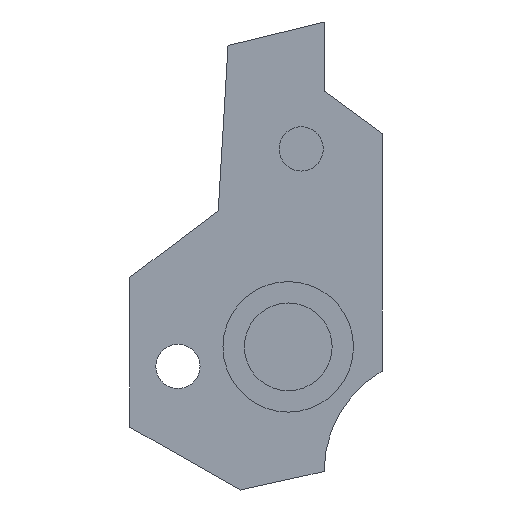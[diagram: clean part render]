
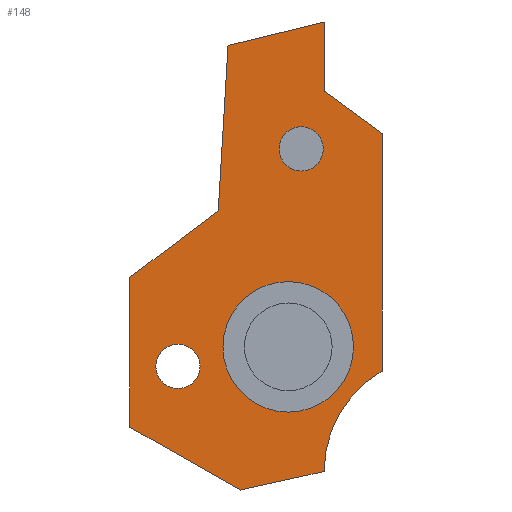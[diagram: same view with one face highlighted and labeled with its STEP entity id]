
A CAD part, front view. The second image highlights one B-rep face of the part: STEP entity #148.
In plain terms, the highlighted planar face has unit normal (0, -1, 0).
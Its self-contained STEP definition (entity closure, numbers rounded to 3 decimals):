
#8 = CARTESIAN_POINT ( 'NONE',  ( -3.902, 0., -6.872 ) ) ;
#9 = VERTEX_POINT ( 'NONE', #66 ) ;
#16 = EDGE_CURVE ( 'NONE', #608, #464, #752, .T. ) ;
#22 = PLANE ( 'NONE',  #64 ) ;
#31 = VECTOR ( 'NONE', #259, 1000. ) ;
#38 = CARTESIAN_POINT ( 'NONE',  ( -18.08, 0., 5.725 ) ) ;
#47 = AXIS2_PLACEMENT_3D ( 'NONE', #664, #941, #353 ) ;
#49 = VERTEX_POINT ( 'NONE', #607 ) ;
#50 = DIRECTION ( 'NONE',  ( 0., 0., 1. ) ) ;
#53 = ORIENTED_EDGE ( 'NONE', *, *, #811, .T. ) ;
#64 = AXIS2_PLACEMENT_3D ( 'NONE', #319, #109, #403 ) ;
#66 = CARTESIAN_POINT ( 'NONE',  ( -15.297, 0., 17.989 ) ) ;
#68 = AXIS2_PLACEMENT_3D ( 'NONE', #325, #609, #897 ) ;
#70 = EDGE_CURVE ( 'NONE', #571, #456, #316, .T. ) ;
#73 = ORIENTED_EDGE ( 'NONE', *, *, #904, .F. ) ;
#75 = VECTOR ( 'NONE', #887, 1000. ) ;
#80 = VERTEX_POINT ( 'NONE', #222 ) ;
#81 = DIRECTION ( 'NONE',  ( 0., 0., 1. ) ) ;
#96 = VECTOR ( 'NONE', #228, 1000. ) ;
#107 = AXIS2_PLACEMENT_3D ( 'NONE', #310, #746, #81 ) ;
#109 = DIRECTION ( 'NONE',  ( 0., 1., 0. ) ) ;
#148 = ADVANCED_FACE ( 'NONE', ( #258, #757, #775, #187 ), #22, .F. ) ;
#161 = CARTESIAN_POINT ( 'NONE',  ( -9.58, 0., 23.775 ) ) ;
#163 = DIRECTION ( 'NONE',  ( 0., 0., 1. ) ) ;
#181 = DIRECTION ( 'NONE',  ( 0., 1., 0. ) ) ;
#182 = VECTOR ( 'NONE', #410, 1000. ) ;
#187 = FACE_BOUND ( 'NONE', #335, .T. ) ;
#189 = LINE ( 'NONE', #555, #586 ) ;
#193 = LINE ( 'NONE', #284, #716 ) ;
#198 = EDGE_LOOP ( 'NONE', ( #813, #844 ) ) ;
#204 = AXIS2_PLACEMENT_3D ( 'NONE', #711, #254, #627 ) ;
#213 = VERTEX_POINT ( 'NONE', #372 ) ;
#216 = CARTESIAN_POINT ( 'NONE',  ( -18.08, 0., 8.775 ) ) ;
#222 = CARTESIAN_POINT ( 'NONE',  ( -8., 0., 0. ) ) ;
#228 = DIRECTION ( 'NONE',  ( 0.972, 0., 0.237 ) ) ;
#236 = CARTESIAN_POINT ( 'NONE',  ( -16.303, 0., 0.963 ) ) ;
#242 = CIRCLE ( 'NONE', #68, 1.525 ) ;
#254 = DIRECTION ( 'NONE',  ( 0., -1., 0. ) ) ;
#258 = FACE_BOUND ( 'NONE', #378, .T. ) ;
#259 = DIRECTION ( 'NONE',  ( 0., 0., 1. ) ) ;
#274 = VERTEX_POINT ( 'NONE', #689 ) ;
#275 = CIRCLE ( 'NONE', #327, 8. ) ;
#284 = CARTESIAN_POINT ( 'NONE',  ( 9.714, 0., 13.209 ) ) ;
#285 = EDGE_CURVE ( 'NONE', #456, #571, #242, .T. ) ;
#298 = EDGE_CURVE ( 'NONE', #213, #411, #390, .T. ) ;
#299 = ORIENTED_EDGE ( 'NONE', *, *, #317, .F. ) ;
#304 = VECTOR ( 'NONE', #163, 1000. ) ;
#310 = CARTESIAN_POINT ( 'NONE',  ( -10.472, 0., 8.599 ) ) ;
#312 = LINE ( 'NONE', #675, #96 ) ;
#316 = CIRCLE ( 'NONE', #432, 1.525 ) ;
#317 = EDGE_CURVE ( 'NONE', #9, #359, #542, .T. ) ;
#319 = CARTESIAN_POINT ( 'NONE',  ( 0., 0., 0. ) ) ;
#320 = VERTEX_POINT ( 'NONE', #161 ) ;
#323 = ORIENTED_EDGE ( 'NONE', *, *, #435, .F. ) ;
#325 = CARTESIAN_POINT ( 'NONE',  ( -18.08, 0., 7.25 ) ) ;
#327 = AXIS2_PLACEMENT_3D ( 'NONE', #788, #925, #50 ) ;
#335 = EDGE_LOOP ( 'NONE', ( #323, #885 ) ) ;
#353 = DIRECTION ( 'NONE',  ( 0., 0., 1. ) ) ;
#355 = EDGE_CURVE ( 'NONE', #587, #49, #865, .T. ) ;
#357 = CARTESIAN_POINT ( 'NONE',  ( -10.472, 0., 4.099 ) ) ;
#359 = VERTEX_POINT ( 'NONE', #376 ) ;
#364 = DIRECTION ( 'NONE',  ( 0., -1., 0. ) ) ;
#372 = CARTESIAN_POINT ( 'NONE',  ( -8., 0., 31. ) ) ;
#376 = CARTESIAN_POINT ( 'NONE',  ( -14.624, 0., 29.384 ) ) ;
#378 = EDGE_LOOP ( 'NONE', ( #407, #451 ) ) ;
#385 = AXIS2_PLACEMENT_3D ( 'NONE', #564, #181, #776 ) ;
#390 = LINE ( 'NONE', #619, #75 ) ;
#403 = DIRECTION ( 'NONE',  ( 0., 0., 1. ) ) ;
#407 = ORIENTED_EDGE ( 'NONE', *, *, #285, .F. ) ;
#410 = DIRECTION ( 'NONE',  ( 0.798, 0., 0.602 ) ) ;
#411 = VERTEX_POINT ( 'NONE', #909 ) ;
#414 = CARTESIAN_POINT ( 'NONE',  ( -4., 0., 0. ) ) ;
#432 = AXIS2_PLACEMENT_3D ( 'NONE', #894, #364, #830 ) ;
#435 = EDGE_CURVE ( 'NONE', #49, #587, #496, .T. ) ;
#451 = ORIENTED_EDGE ( 'NONE', *, *, #70, .F. ) ;
#456 = VERTEX_POINT ( 'NONE', #38 ) ;
#463 = VECTOR ( 'NONE', #823, 1000. ) ;
#464 = VERTEX_POINT ( 'NONE', #845 ) ;
#468 = VERTEX_POINT ( 'NONE', #568 ) ;
#472 = LINE ( 'NONE', #573, #182 ) ;
#496 = CIRCLE ( 'NONE', #204, 4.5 ) ;
#499 = EDGE_CURVE ( 'NONE', #464, #80, #189, .T. ) ;
#535 = ORIENTED_EDGE ( 'NONE', *, *, #720, .F. ) ;
#542 = LINE ( 'NONE', #236, #861 ) ;
#555 = CARTESIAN_POINT ( 'NONE',  ( -0.371, 0., 1.683 ) ) ;
#564 = CARTESIAN_POINT ( 'NONE',  ( -9.58, 0., 22.25 ) ) ;
#568 = CARTESIAN_POINT ( 'NONE',  ( -4., 0., 6.928 ) ) ;
#569 = LINE ( 'NONE', #414, #31 ) ;
#571 = VERTEX_POINT ( 'NONE', #216 ) ;
#573 = CARTESIAN_POINT ( 'NONE',  ( -14.202, 0., 18.815 ) ) ;
#586 = VECTOR ( 'NONE', #771, 1000. ) ;
#587 = VERTEX_POINT ( 'NONE', #357 ) ;
#595 = CARTESIAN_POINT ( 'NONE',  ( -21.391, 0., 3.057 ) ) ;
#604 = EDGE_CURVE ( 'NONE', #764, #320, #727, .T. ) ;
#607 = CARTESIAN_POINT ( 'NONE',  ( -10.472, 0., 13.099 ) ) ;
#608 = VERTEX_POINT ( 'NONE', #595 ) ;
#609 = DIRECTION ( 'NONE',  ( 0., -1., 0. ) ) ;
#616 = LINE ( 'NONE', #691, #304 ) ;
#619 = CARTESIAN_POINT ( 'NONE',  ( -8., 0., 0. ) ) ;
#627 = DIRECTION ( 'NONE',  ( 0., 0., 1. ) ) ;
#636 = ORIENTED_EDGE ( 'NONE', *, *, #16, .T. ) ;
#664 = CARTESIAN_POINT ( 'NONE',  ( -9.58, 0., 22.25 ) ) ;
#675 = CARTESIAN_POINT ( 'NONE',  ( -7.586, 0., 31.101 ) ) ;
#689 = CARTESIAN_POINT ( 'NONE',  ( -4., 0., 23.293 ) ) ;
#691 = CARTESIAN_POINT ( 'NONE',  ( -21.391, 0., 0. ) ) ;
#706 = EDGE_CURVE ( 'NONE', #359, #213, #312, .T. ) ;
#710 = ORIENTED_EDGE ( 'NONE', *, *, #298, .F. ) ;
#711 = CARTESIAN_POINT ( 'NONE',  ( -10.472, 0., 8.599 ) ) ;
#716 = VECTOR ( 'NONE', #864, 1000. ) ;
#720 = EDGE_CURVE ( 'NONE', #608, #929, #616, .T. ) ;
#727 = CIRCLE ( 'NONE', #47, 1.525 ) ;
#729 = CIRCLE ( 'NONE', #385, 1.525 ) ;
#746 = DIRECTION ( 'NONE',  ( 0., -1., 0. ) ) ;
#752 = LINE ( 'NONE', #8, #463 ) ;
#757 = FACE_OUTER_BOUND ( 'NONE', #856, .T. ) ;
#759 = ORIENTED_EDGE ( 'NONE', *, *, #499, .T. ) ;
#764 = VERTEX_POINT ( 'NONE', #837 ) ;
#765 = DIRECTION ( 'NONE',  ( 0.059, 0., 0.998 ) ) ;
#771 = DIRECTION ( 'NONE',  ( 0.977, 0., 0.215 ) ) ;
#775 = FACE_BOUND ( 'NONE', #198, .T. ) ;
#776 = DIRECTION ( 'NONE',  ( 0., 0., 1. ) ) ;
#788 = CARTESIAN_POINT ( 'NONE',  ( 0., 0., 0. ) ) ;
#805 = ORIENTED_EDGE ( 'NONE', *, *, #706, .F. ) ;
#811 = EDGE_CURVE ( 'NONE', #468, #274, #569, .T. ) ;
#813 = ORIENTED_EDGE ( 'NONE', *, *, #604, .T. ) ;
#819 = ORIENTED_EDGE ( 'NONE', *, *, #836, .T. ) ;
#823 = DIRECTION ( 'NONE',  ( 0.87, 0., -0.494 ) ) ;
#830 = DIRECTION ( 'NONE',  ( 0., 0., -1. ) ) ;
#836 = EDGE_CURVE ( 'NONE', #80, #468, #275, .T. ) ;
#837 = CARTESIAN_POINT ( 'NONE',  ( -9.58, 0., 20.725 ) ) ;
#844 = ORIENTED_EDGE ( 'NONE', *, *, #857, .T. ) ;
#845 = CARTESIAN_POINT ( 'NONE',  ( -13.766, 0., -1.272 ) ) ;
#855 = CARTESIAN_POINT ( 'NONE',  ( -21.391, 0., 13.389 ) ) ;
#856 = EDGE_LOOP ( 'NONE', ( #819, #53, #875, #710, #805, #299, #73, #535, #636, #759 ) ) ;
#857 = EDGE_CURVE ( 'NONE', #320, #764, #729, .T. ) ;
#861 = VECTOR ( 'NONE', #765, 1000. ) ;
#864 = DIRECTION ( 'NONE',  ( 0.806, 0., -0.592 ) ) ;
#865 = CIRCLE ( 'NONE', #107, 4.5 ) ;
#875 = ORIENTED_EDGE ( 'NONE', *, *, #930, .F. ) ;
#885 = ORIENTED_EDGE ( 'NONE', *, *, #355, .F. ) ;
#887 = DIRECTION ( 'NONE',  ( 0., 0., -1. ) ) ;
#894 = CARTESIAN_POINT ( 'NONE',  ( -18.08, 0., 7.25 ) ) ;
#897 = DIRECTION ( 'NONE',  ( 0., 0., -1. ) ) ;
#904 = EDGE_CURVE ( 'NONE', #929, #9, #472, .T. ) ;
#909 = CARTESIAN_POINT ( 'NONE',  ( -8., 0., 26.235 ) ) ;
#925 = DIRECTION ( 'NONE',  ( 0., 1., 0. ) ) ;
#929 = VERTEX_POINT ( 'NONE', #855 ) ;
#930 = EDGE_CURVE ( 'NONE', #411, #274, #193, .T. ) ;
#941 = DIRECTION ( 'NONE',  ( 0., 1., 0. ) ) ;
